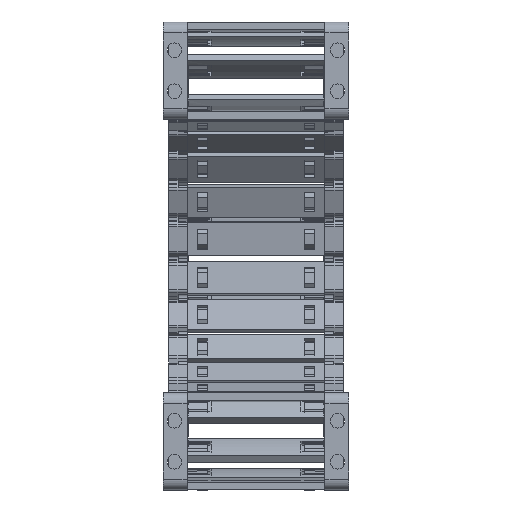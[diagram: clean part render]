
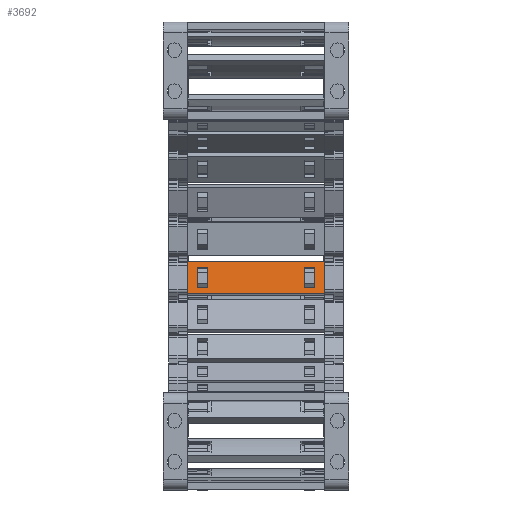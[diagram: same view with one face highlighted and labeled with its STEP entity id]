
A CAD part, left-side view. The second image highlights one B-rep face of the part: STEP entity #3692.
In plain terms, the highlighted planar face has unit normal (-0.988, 0, 0.156) as drawn and (0, 0, -1) by its records, which use the part's own axes.
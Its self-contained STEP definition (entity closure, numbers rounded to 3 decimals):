
#3172=DIRECTION('',(-1.,0.,0.));
#3173=VECTOR('',#3172,18.);
#3174=CARTESIAN_POINT('',(9.,-50.25,0.));
#3175=LINE('',#3174,#3173);
#3210=DIRECTION('',(0.,1.,0.));
#3211=VECTOR('',#3210,5.56);
#3212=CARTESIAN_POINT('',(-5.55,14.2,0.));
#3213=LINE('',#3212,#3211);
#3214=DIRECTION('',(1.,0.,0.));
#3215=VECTOR('',#3214,11.1);
#3216=CARTESIAN_POINT('',(-5.55,19.76,0.));
#3217=LINE('',#3216,#3215);
#3218=DIRECTION('',(0.,-1.,0.));
#3219=VECTOR('',#3218,5.56);
#3220=CARTESIAN_POINT('',(5.55,19.76,0.));
#3221=LINE('',#3220,#3219);
#3222=DIRECTION('',(-1.,0.,0.));
#3223=VECTOR('',#3222,11.1);
#3224=CARTESIAN_POINT('',(5.55,14.2,0.));
#3225=LINE('',#3224,#3223);
#3230=DIRECTION('',(1.,0.,0.));
#3231=VECTOR('',#3230,18.);
#3232=CARTESIAN_POINT('',(-9.,25.25,0.));
#3233=LINE('',#3232,#3231);
#3264=DIRECTION('',(0.,1.,0.));
#3265=VECTOR('',#3264,75.5);
#3266=CARTESIAN_POINT('',(-9.,-50.25,0.));
#3267=LINE('',#3266,#3265);
#3393=DIRECTION('',(0.,-1.,0.));
#3394=VECTOR('',#3393,75.5);
#3395=CARTESIAN_POINT('',(9.,25.25,0.));
#3396=LINE('',#3395,#3394);
#3458=DIRECTION('',(0.,-1.,0.));
#3459=VECTOR('',#3458,5.56);
#3460=CARTESIAN_POINT('',(-5.55,-39.2,0.));
#3461=LINE('',#3460,#3459);
#3470=DIRECTION('',(0.,1.,0.));
#3471=VECTOR('',#3470,5.56);
#3472=CARTESIAN_POINT('',(5.55,-44.76,0.));
#3473=LINE('',#3472,#3471);
#3482=DIRECTION('',(1.,0.,0.));
#3483=VECTOR('',#3482,11.1);
#3484=CARTESIAN_POINT('',(-5.55,-44.76,0.));
#3485=LINE('',#3484,#3483);
#3494=DIRECTION('',(-1.,0.,0.));
#3495=VECTOR('',#3494,11.1);
#3496=CARTESIAN_POINT('',(5.55,-39.2,0.));
#3497=LINE('',#3496,#3495);
#3546=CARTESIAN_POINT('',(9.,-50.25,0.));
#3547=CARTESIAN_POINT('',(-9.,-50.25,0.));
#3548=VERTEX_POINT('',#3546);
#3549=VERTEX_POINT('',#3547);
#3570=CARTESIAN_POINT('',(-5.55,-39.2,0.));
#3571=CARTESIAN_POINT('',(-5.55,-44.76,0.));
#3572=VERTEX_POINT('',#3570);
#3573=VERTEX_POINT('',#3571);
#3574=CARTESIAN_POINT('',(5.55,-39.2,0.));
#3575=VERTEX_POINT('',#3574);
#3576=CARTESIAN_POINT('',(5.55,-44.76,0.));
#3577=VERTEX_POINT('',#3576);
#3602=CARTESIAN_POINT('',(-9.,25.25,0.));
#3603=CARTESIAN_POINT('',(9.,25.25,0.));
#3604=VERTEX_POINT('',#3602);
#3605=VERTEX_POINT('',#3603);
#3606=CARTESIAN_POINT('',(-5.55,14.2,0.));
#3607=CARTESIAN_POINT('',(-5.55,19.76,0.));
#3608=VERTEX_POINT('',#3606);
#3609=VERTEX_POINT('',#3607);
#3610=CARTESIAN_POINT('',(5.55,19.76,0.));
#3611=VERTEX_POINT('',#3610);
#3612=CARTESIAN_POINT('',(5.55,14.2,0.));
#3613=VERTEX_POINT('',#3612);
#3658=CARTESIAN_POINT('',(8.,-50.25,0.));
#3659=DIRECTION('',(0.,0.,-1.));
#3660=DIRECTION('',(-1.,0.,0.));
#3661=AXIS2_PLACEMENT_3D('',#3658,#3659,#3660);
#3662=PLANE('',#3661);
#3664=ORIENTED_EDGE('',*,*,#3663,.F.);
#3666=ORIENTED_EDGE('',*,*,#3665,.F.);
#3667=ORIENTED_EDGE('',*,*,#3631,.F.);
#3669=ORIENTED_EDGE('',*,*,#3668,.F.);
#3670=EDGE_LOOP('',(#3664,#3666,#3667,#3669));
#3671=FACE_OUTER_BOUND('',#3670,.F.);
#3673=ORIENTED_EDGE('',*,*,#3672,.T.);
#3675=ORIENTED_EDGE('',*,*,#3674,.T.);
#3677=ORIENTED_EDGE('',*,*,#3676,.T.);
#3679=ORIENTED_EDGE('',*,*,#3678,.T.);
#3680=EDGE_LOOP('',(#3673,#3675,#3677,#3679));
#3681=FACE_BOUND('',#3680,.F.);
#3683=ORIENTED_EDGE('',*,*,#3682,.F.);
#3685=ORIENTED_EDGE('',*,*,#3684,.F.);
#3687=ORIENTED_EDGE('',*,*,#3686,.F.);
#3689=ORIENTED_EDGE('',*,*,#3688,.F.);
#3690=EDGE_LOOP('',(#3683,#3685,#3687,#3689));
#3691=FACE_BOUND('',#3690,.F.);
#3692=ADVANCED_FACE('',(#3671,#3681,#3691),#3662,.T.);
#3631=EDGE_CURVE('',#3548,#3549,#3175,.T.);
#3663=EDGE_CURVE('',#3604,#3605,#3233,.T.);
#3665=EDGE_CURVE('',#3549,#3604,#3267,.T.);
#3668=EDGE_CURVE('',#3605,#3548,#3396,.T.);
#3672=EDGE_CURVE('',#3608,#3609,#3213,.T.);
#3674=EDGE_CURVE('',#3609,#3611,#3217,.T.);
#3676=EDGE_CURVE('',#3611,#3613,#3221,.T.);
#3678=EDGE_CURVE('',#3613,#3608,#3225,.T.);
#3682=EDGE_CURVE('',#3572,#3573,#3461,.T.);
#3684=EDGE_CURVE('',#3575,#3572,#3497,.T.);
#3686=EDGE_CURVE('',#3577,#3575,#3473,.T.);
#3688=EDGE_CURVE('',#3573,#3577,#3485,.T.);
